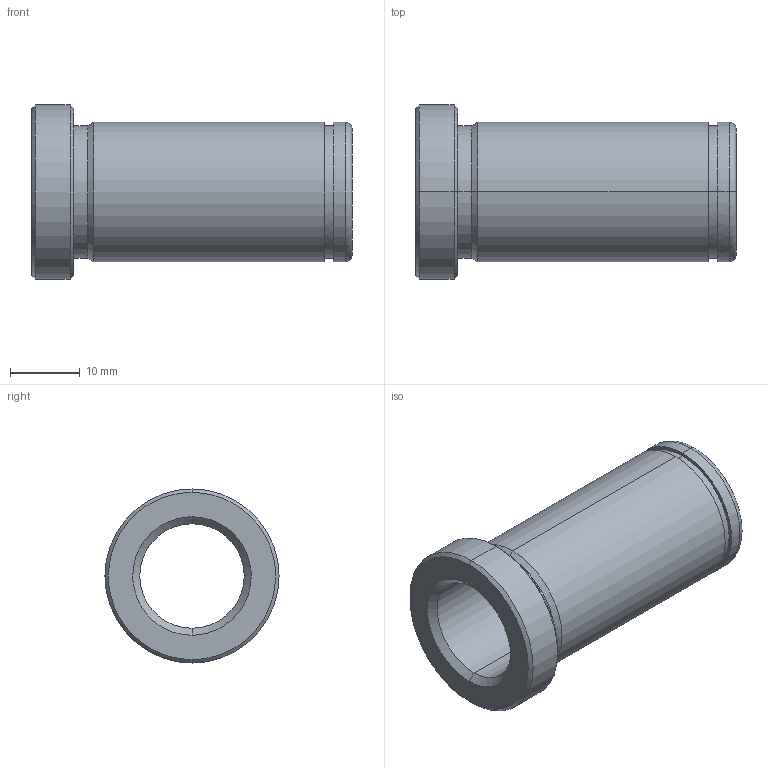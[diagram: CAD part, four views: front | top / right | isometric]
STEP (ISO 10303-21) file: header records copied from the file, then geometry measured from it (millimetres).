
FILE_DESCRIPTION(('CATIA V5 STEP Exchange'),'2;1');
FILE_NAME('C:\Users\Utente\Desktop\IO LAVORO\3D X SITO CF\X SITO\PLASTICA\553\553-15X46.stp','2021-05-21T18:37:32+00:00',('none'),('none'),'CATIA Version 5 Release 20 GA (IN-10)','CATIA V5 STEP AP203','none');
FILE_SCHEMA(('CONFIG_CONTROL_DESIGN'));
Length unit declared in the file: millimetre
Products named in the file (1): 553-15X46
Bounding box: 46 x 25 x 25 mm (x, y, z)
Volume: 7187.3 mm3; surface area: 5739.2 mm2
Topology: 1 solids, 1 shells, 28 faces, 88 edges, 64 vertices
Faces by surface type: cylinder 12, cone 8, plane 4, torus 4
Entity records: 1176 total; most frequent: CARTESIAN_POINT 359, ORIENTED_EDGE 176, DIRECTION 130, EDGE_CURVE 88, AXIS2_PLACEMENT_3D 83, VERTEX_POINT 64, CIRCLE 54, EDGE_LOOP 32
